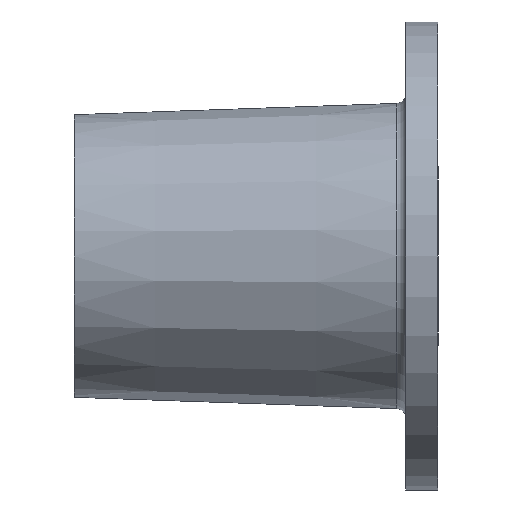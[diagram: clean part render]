
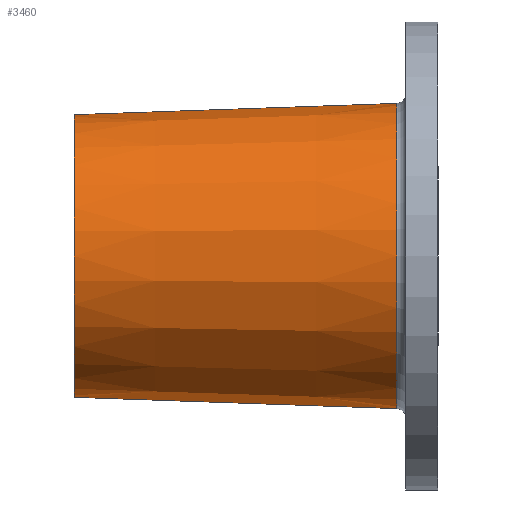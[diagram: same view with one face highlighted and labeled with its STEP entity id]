
A CAD part, left-side view. The second image highlights one B-rep face of the part: STEP entity #3460.
In plain terms, the highlighted conical face has half-angle 2 degrees and reference radius 69.017 mm.
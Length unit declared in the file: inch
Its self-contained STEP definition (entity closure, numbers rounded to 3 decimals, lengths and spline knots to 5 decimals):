
#12 = EDGE_CURVE ( 'NONE', #2087, #3319, #1907, .T. ) ;
#52 = ORIENTED_EDGE ( 'NONE', *, *, #5860, .F. ) ;
#300 = LINE ( 'NONE', #5549, #5308 ) ;
#407 = DIRECTION ( 'NONE',  ( 0., -0.999, -0.035 ) ) ;
#484 = DIRECTION ( 'NONE',  ( 0., 0., -1. ) ) ;
#625 = CARTESIAN_POINT ( 'NONE',  ( 0., 0.79372, -2.93393 ) ) ;
#1047 = CIRCLE ( 'NONE', #5115, 2.93393 ) ;
#1203 = CARTESIAN_POINT ( 'NONE',  ( 0., 7., 0. ) ) ;
#1388 = EDGE_CURVE ( 'NONE', #2685, #4817, #1047, .T. ) ;
#1502 = CARTESIAN_POINT ( 'NONE',  ( 0., 7., 0. ) ) ;
#1784 = CARTESIAN_POINT ( 'NONE',  ( 0., 0.79372, 2.93393 ) ) ;
#1907 = CIRCLE ( 'NONE', #6276, 2.71721 ) ;
#2087 = VERTEX_POINT ( 'NONE', #4800 ) ;
#2142 = DIRECTION ( 'NONE',  ( 0., -0.999, 0.035 ) ) ;
#2453 = DIRECTION ( 'NONE',  ( 0., -1., 0. ) ) ;
#2685 = VERTEX_POINT ( 'NONE', #625 ) ;
#2731 = FACE_OUTER_BOUND ( 'NONE', #3821, .T. ) ;
#2946 = DIRECTION ( 'NONE',  ( 0., 0., -1. ) ) ;
#3008 = VECTOR ( 'NONE', #407, 39.37008 ) ;
#3133 = DIRECTION ( 'NONE',  ( 0., 0., -1. ) ) ;
#3143 = ORIENTED_EDGE ( 'NONE', *, *, #1388, .T. ) ;
#3160 = LINE ( 'NONE', #3797, #3008 ) ;
#3319 = VERTEX_POINT ( 'NONE', #6241 ) ;
#3363 = DIRECTION ( 'NONE',  ( 0., 1., 0. ) ) ;
#3449 = AXIS2_PLACEMENT_3D ( 'NONE', #1502, #2453, #2946 ) ;
#3460 = ADVANCED_FACE ( 'NONE', ( #2731 ), #3716, .T. ) ;
#3716 = CONICAL_SURFACE ( 'NONE', #3449, 2.71721, 0.035 ) ;
#3797 = CARTESIAN_POINT ( 'NONE',  ( 0., 7., -2.71721 ) ) ;
#3821 = EDGE_LOOP ( 'NONE', ( #52, #4957, #5990, #3143 ) ) ;
#4800 = CARTESIAN_POINT ( 'NONE',  ( 0., 7., 2.71721 ) ) ;
#4817 = VERTEX_POINT ( 'NONE', #1784 ) ;
#4957 = ORIENTED_EDGE ( 'NONE', *, *, #12, .T. ) ;
#5115 = AXIS2_PLACEMENT_3D ( 'NONE', #6274, #3363, #484 ) ;
#5308 = VECTOR ( 'NONE', #2142, 39.37008 ) ;
#5549 = CARTESIAN_POINT ( 'NONE',  ( 0., 7., 2.71721 ) ) ;
#5778 = EDGE_CURVE ( 'NONE', #3319, #2685, #3160, .T. ) ;
#5860 = EDGE_CURVE ( 'NONE', #2087, #4817, #300, .T. ) ;
#5990 = ORIENTED_EDGE ( 'NONE', *, *, #5778, .T. ) ;
#6055 = DIRECTION ( 'NONE',  ( 0., -1., 0. ) ) ;
#6241 = CARTESIAN_POINT ( 'NONE',  ( 0., 7., -2.71721 ) ) ;
#6274 = CARTESIAN_POINT ( 'NONE',  ( 0., 0.79372, 0. ) ) ;
#6276 = AXIS2_PLACEMENT_3D ( 'NONE', #1203, #6055, #3133 ) ;
